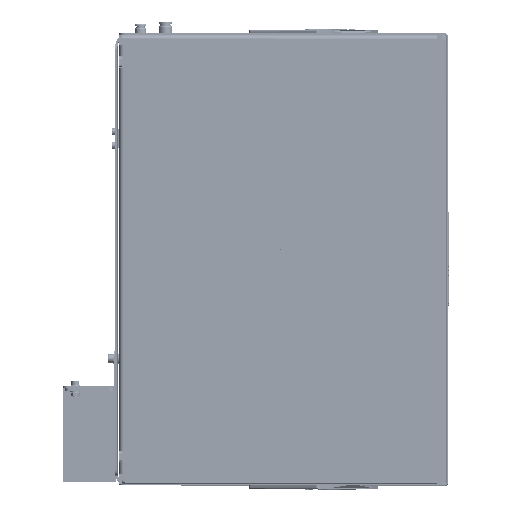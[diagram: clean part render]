
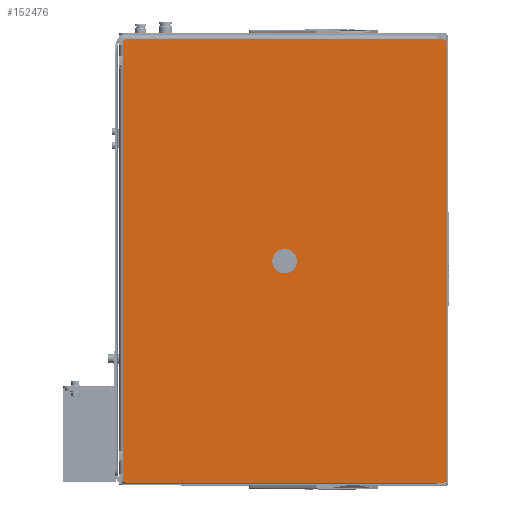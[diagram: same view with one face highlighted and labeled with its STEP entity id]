
A CAD part, top view. The second image highlights one B-rep face of the part: STEP entity #152476.
In plain terms, the highlighted planar face has unit normal (0, 0, 1).
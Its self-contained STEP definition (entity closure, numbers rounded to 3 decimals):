
#9820=CIRCLE('',#163576,3.);
#9821=CIRCLE('',#163577,3.);
#9822=CIRCLE('',#163578,3.);
#9823=CIRCLE('',#163579,3.);
#9824=CIRCLE('',#163580,12.5);
#9825=CIRCLE('',#163581,12.5);
#14892=FACE_BOUND('',#29669,.T.);
#20747=FACE_OUTER_BOUND('',#29668,.T.);
#29668=EDGE_LOOP('',(#121176,#121177,#121178,#121179,#121180,#121181,#121182,
#121183));
#29669=EDGE_LOOP('',(#121184,#121185));
#40968=LINE('',#265433,#52511);
#40969=LINE('',#265437,#52512);
#40970=LINE('',#265441,#52513);
#40971=LINE('',#265444,#52514);
#52511=VECTOR('',#193425,10.);
#52512=VECTOR('',#193428,10.);
#52513=VECTOR('',#193431,10.);
#52514=VECTOR('',#193434,10.);
#65894=VERTEX_POINT('',#265429);
#65895=VERTEX_POINT('',#265430);
#65896=VERTEX_POINT('',#265432);
#65897=VERTEX_POINT('',#265434);
#65898=VERTEX_POINT('',#265436);
#65899=VERTEX_POINT('',#265438);
#65900=VERTEX_POINT('',#265440);
#65901=VERTEX_POINT('',#265442);
#65902=VERTEX_POINT('',#265445);
#65903=VERTEX_POINT('',#265446);
#85250=EDGE_CURVE('',#65894,#65895,#9820,.T.);
#85251=EDGE_CURVE('',#65896,#65894,#40968,.T.);
#85252=EDGE_CURVE('',#65897,#65896,#9821,.T.);
#85253=EDGE_CURVE('',#65898,#65897,#40969,.T.);
#85254=EDGE_CURVE('',#65899,#65898,#9822,.T.);
#85255=EDGE_CURVE('',#65900,#65899,#40970,.T.);
#85256=EDGE_CURVE('',#65901,#65900,#9823,.T.);
#85257=EDGE_CURVE('',#65895,#65901,#40971,.T.);
#85258=EDGE_CURVE('',#65902,#65903,#9824,.T.);
#85259=EDGE_CURVE('',#65903,#65902,#9825,.T.);
#121176=ORIENTED_EDGE('',*,*,#85250,.F.);
#121177=ORIENTED_EDGE('',*,*,#85251,.F.);
#121178=ORIENTED_EDGE('',*,*,#85252,.F.);
#121179=ORIENTED_EDGE('',*,*,#85253,.F.);
#121180=ORIENTED_EDGE('',*,*,#85254,.F.);
#121181=ORIENTED_EDGE('',*,*,#85255,.F.);
#121182=ORIENTED_EDGE('',*,*,#85256,.F.);
#121183=ORIENTED_EDGE('',*,*,#85257,.F.);
#121184=ORIENTED_EDGE('',*,*,#85258,.T.);
#121185=ORIENTED_EDGE('',*,*,#85259,.T.);
#138456=PLANE('',#163575);
#152476=ADVANCED_FACE('',(#20747,#14892),#138456,.T.);
#163575=AXIS2_PLACEMENT_3D('',#265428,#193421,#193422);
#163576=AXIS2_PLACEMENT_3D('',#265431,#193423,#193424);
#163577=AXIS2_PLACEMENT_3D('',#265435,#193426,#193427);
#163578=AXIS2_PLACEMENT_3D('',#265439,#193429,#193430);
#163579=AXIS2_PLACEMENT_3D('',#265443,#193432,#193433);
#163580=AXIS2_PLACEMENT_3D('',#265447,#193435,#193436);
#163581=AXIS2_PLACEMENT_3D('',#265448,#193437,#193438);
#193421=DIRECTION('center_axis',(0.,0.,
1.));
#193422=DIRECTION('ref_axis',(1.,0.,0.));
#193423=DIRECTION('center_axis',(0.,0.,
-1.));
#193424=DIRECTION('ref_axis',(-0.707,0.707,0.));
#193425=DIRECTION('',(0.,1.,0.));
#193426=DIRECTION('center_axis',(0.,0.,
-1.));
#193427=DIRECTION('ref_axis',(-0.707,-0.707,0.));
#193428=DIRECTION('',(-1.,0.,0.));
#193429=DIRECTION('center_axis',(0.,0.,
-1.));
#193430=DIRECTION('ref_axis',(0.707,-0.707,0.));
#193431=DIRECTION('',(0.,-1.,0.));
#193432=DIRECTION('center_axis',(0.,0.,
-1.));
#193433=DIRECTION('ref_axis',(0.707,0.707,0.));
#193434=DIRECTION('',(1.,0.,0.));
#193435=DIRECTION('center_axis',(0.,0.,
-1.));
#193436=DIRECTION('ref_axis',(1.,0.,0.));
#193437=DIRECTION('center_axis',(0.,0.,
-1.));
#193438=DIRECTION('ref_axis',(1.,0.,0.));
#265428=CARTESIAN_POINT('Origin',(323.076,265.353,261.301));
#265429=CARTESIAN_POINT('',(159.326,487.103,261.301));
#265430=CARTESIAN_POINT('',(162.326,490.103,261.301));
#265431=CARTESIAN_POINT('Origin',(162.326,487.103,261.301));
#265432=CARTESIAN_POINT('',(159.326,43.603,261.301));
#265433=CARTESIAN_POINT('',(159.326,490.103,261.301));
#265434=CARTESIAN_POINT('',(162.326,40.603,261.301));
#265435=CARTESIAN_POINT('Origin',(162.326,43.603,261.301));
#265436=CARTESIAN_POINT('',(483.826,40.603,261.301));
#265437=CARTESIAN_POINT('',(159.326,40.603,261.301));
#265438=CARTESIAN_POINT('',(486.826,43.603,261.301));
#265439=CARTESIAN_POINT('Origin',(483.826,43.603,261.301));
#265440=CARTESIAN_POINT('',(486.826,487.103,261.301));
#265441=CARTESIAN_POINT('',(486.826,40.603,261.301));
#265442=CARTESIAN_POINT('',(483.826,490.103,261.301));
#265443=CARTESIAN_POINT('Origin',(483.826,487.103,261.301));
#265444=CARTESIAN_POINT('',(486.826,490.103,261.301));
#265445=CARTESIAN_POINT('',(335.576,265.353,261.301));
#265446=CARTESIAN_POINT('',(310.576,265.353,261.301));
#265447=CARTESIAN_POINT('Origin',(323.076,265.353,261.301));
#265448=CARTESIAN_POINT('Origin',(323.076,265.353,261.301));
